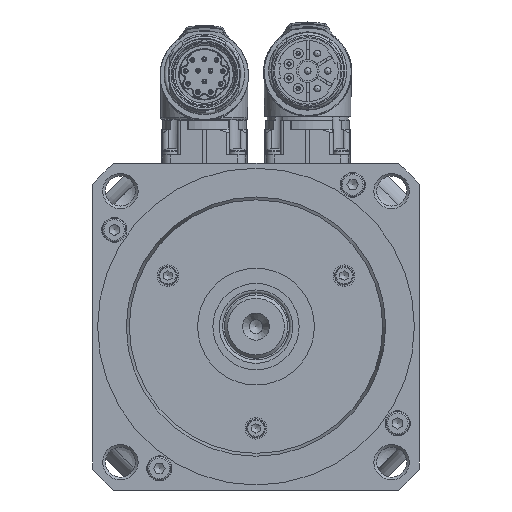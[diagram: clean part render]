
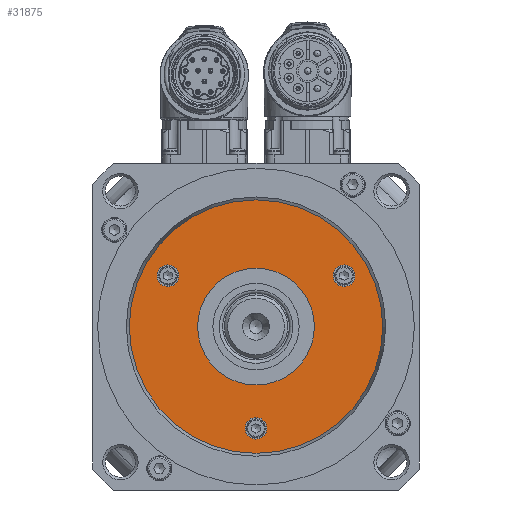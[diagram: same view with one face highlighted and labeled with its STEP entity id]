
A CAD part, left-side view. The second image highlights one B-rep face of the part: STEP entity #31875.
In plain terms, the highlighted planar face has unit normal (-1, 0, 0).
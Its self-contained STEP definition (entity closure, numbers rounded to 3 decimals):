
#1468=FACE_BOUND('',#4245,.T.);
#1469=FACE_BOUND('',#4246,.T.);
#1470=FACE_BOUND('',#4247,.T.);
#1471=FACE_BOUND('',#4248,.T.);
#1727=PLANE('',#34316);
#2358=FACE_OUTER_BOUND('',#4244,.T.);
#4244=EDGE_LOOP('',(#20626,#20627));
#4245=EDGE_LOOP('',(#20628,#20629));
#4246=EDGE_LOOP('',(#20630,#20631));
#4247=EDGE_LOOP('',(#20632,#20633));
#4248=EDGE_LOOP('',(#20634,#20635));
#6490=CIRCLE('',#34246,3.25);
#6491=CIRCLE('',#34247,3.25);
#6495=CIRCLE('',#34254,3.25);
#6496=CIRCLE('',#34255,3.25);
#6500=CIRCLE('',#34262,3.25);
#6501=CIRCLE('',#34263,3.25);
#6526=CIRCLE('',#34317,38.);
#6527=CIRCLE('',#34318,38.);
#6528=CIRCLE('',#34319,17.5);
#6529=CIRCLE('',#34320,17.5);
#11974=VERTEX_POINT('',#48365);
#11975=VERTEX_POINT('',#48366);
#11979=VERTEX_POINT('',#48380);
#11980=VERTEX_POINT('',#48381);
#11984=VERTEX_POINT('',#48395);
#11985=VERTEX_POINT('',#48396);
#12010=VERTEX_POINT('',#48501);
#12011=VERTEX_POINT('',#48502);
#12012=VERTEX_POINT('',#48505);
#12013=VERTEX_POINT('',#48506);
#15212=EDGE_CURVE('',#11974,#11975,#6490,.T.);
#15213=EDGE_CURVE('',#11975,#11974,#6491,.T.);
#15219=EDGE_CURVE('',#11979,#11980,#6495,.T.);
#15220=EDGE_CURVE('',#11980,#11979,#6496,.T.);
#15226=EDGE_CURVE('',#11984,#11985,#6500,.T.);
#15227=EDGE_CURVE('',#11985,#11984,#6501,.T.);
#15277=EDGE_CURVE('',#12010,#12011,#6526,.T.);
#15278=EDGE_CURVE('',#12011,#12010,#6527,.T.);
#15279=EDGE_CURVE('',#12012,#12013,#6528,.T.);
#15280=EDGE_CURVE('',#12013,#12012,#6529,.T.);
#20626=ORIENTED_EDGE('',*,*,#15277,.F.);
#20627=ORIENTED_EDGE('',*,*,#15278,.F.);
#20628=ORIENTED_EDGE('',*,*,#15212,.T.);
#20629=ORIENTED_EDGE('',*,*,#15213,.T.);
#20630=ORIENTED_EDGE('',*,*,#15219,.T.);
#20631=ORIENTED_EDGE('',*,*,#15220,.T.);
#20632=ORIENTED_EDGE('',*,*,#15226,.T.);
#20633=ORIENTED_EDGE('',*,*,#15227,.T.);
#20634=ORIENTED_EDGE('',*,*,#15279,.T.);
#20635=ORIENTED_EDGE('',*,*,#15280,.T.);
#31875=ADVANCED_FACE('',(#2358,#1468,#1469,#1470,#1471),#1727,.T.);
#34246=AXIS2_PLACEMENT_3D('',#48367,#38787,#38788);
#34247=AXIS2_PLACEMENT_3D('',#48368,#38789,#38790);
#34254=AXIS2_PLACEMENT_3D('',#48382,#38805,#38806);
#34255=AXIS2_PLACEMENT_3D('',#48383,#38807,#38808);
#34262=AXIS2_PLACEMENT_3D('',#48397,#38823,#38824);
#34263=AXIS2_PLACEMENT_3D('',#48398,#38825,#38826);
#34316=AXIS2_PLACEMENT_3D('',#48500,#38956,#38957);
#34317=AXIS2_PLACEMENT_3D('',#48503,#38958,#38959);
#34318=AXIS2_PLACEMENT_3D('',#48504,#38960,#38961);
#34319=AXIS2_PLACEMENT_3D('',#48507,#38962,#38963);
#34320=AXIS2_PLACEMENT_3D('',#48508,#38964,#38965);
#38787=DIRECTION('center_axis',(1.,0.,0.));
#38788=DIRECTION('ref_axis',(0.,0.5,0.866));
#38789=DIRECTION('center_axis',(1.,0.,0.));
#38790=DIRECTION('ref_axis',(0.,0.5,0.866));
#38805=DIRECTION('center_axis',(1.,0.,0.));
#38806=DIRECTION('ref_axis',(0.,0.5,-0.866));
#38807=DIRECTION('center_axis',(1.,0.,0.));
#38808=DIRECTION('ref_axis',(0.,0.5,-0.866));
#38823=DIRECTION('center_axis',(1.,0.,0.));
#38824=DIRECTION('ref_axis',(0.,-1.,0.));
#38825=DIRECTION('center_axis',(1.,0.,0.));
#38826=DIRECTION('ref_axis',(0.,-1.,0.));
#38956=DIRECTION('center_axis',(-1.,0.,0.));
#38957=DIRECTION('ref_axis',(0.,-1.,0.));
#38958=DIRECTION('center_axis',(1.,0.,0.));
#38959=DIRECTION('ref_axis',(0.,1.,0.));
#38960=DIRECTION('center_axis',(1.,0.,0.));
#38961=DIRECTION('ref_axis',(0.,1.,0.));
#38962=DIRECTION('center_axis',(1.,0.,0.));
#38963=DIRECTION('ref_axis',(0.,1.,0.));
#38964=DIRECTION('center_axis',(1.,0.,0.));
#38965=DIRECTION('ref_axis',(0.,1.,0.));
#48365=CARTESIAN_POINT('',(-64.75,-24.789,18.065));
#48366=CARTESIAN_POINT('',(-64.75,-28.039,12.435));
#48367=CARTESIAN_POINT('Origin',(-64.75,-26.414,15.25));
#48368=CARTESIAN_POINT('Origin',(-64.75,-26.414,15.25));
#48380=CARTESIAN_POINT('',(-64.75,28.039,12.435));
#48381=CARTESIAN_POINT('',(-64.75,24.789,18.065));
#48382=CARTESIAN_POINT('Origin',(-64.75,26.414,15.25));
#48383=CARTESIAN_POINT('Origin',(-64.75,26.414,15.25));
#48395=CARTESIAN_POINT('',(-64.75,-3.25,-30.5));
#48396=CARTESIAN_POINT('',(-64.75,3.25,-30.5));
#48397=CARTESIAN_POINT('Origin',(-64.75,0.,-30.5));
#48398=CARTESIAN_POINT('Origin',(-64.75,0.,-30.5));
#48500=CARTESIAN_POINT('Origin',(-64.75,0.,38.));
#48501=CARTESIAN_POINT('',(-64.75,0.,38.));
#48502=CARTESIAN_POINT('',(-64.75,0.,-38.));
#48503=CARTESIAN_POINT('Origin',(-64.75,0.,0.));
#48504=CARTESIAN_POINT('Origin',(-64.75,0.,0.));
#48505=CARTESIAN_POINT('',(-64.75,0.,17.5));
#48506=CARTESIAN_POINT('',(-64.75,0.,-17.5));
#48507=CARTESIAN_POINT('Origin',(-64.75,0.,0.));
#48508=CARTESIAN_POINT('Origin',(-64.75,0.,0.));
